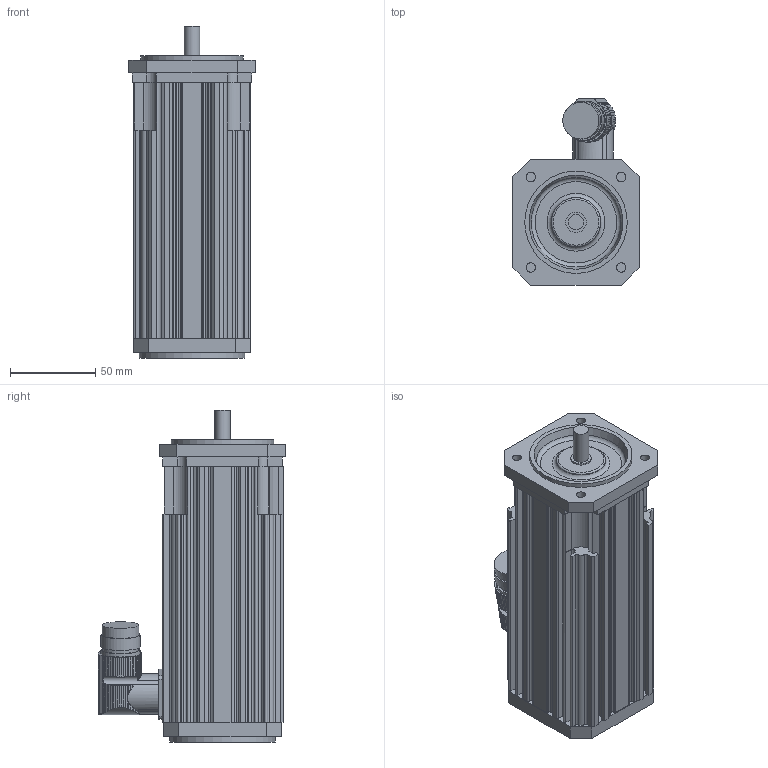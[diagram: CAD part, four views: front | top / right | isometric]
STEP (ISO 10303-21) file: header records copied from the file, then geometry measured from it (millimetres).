
FILE_DESCRIPTION(/* description */ (''),/* implementation_level */ '2;1');
FILE_NAME(/* name */ 'KSA248',/* time_stamp */ '2009-02-26T12:46:03+01:00',/* author */ (''),/* organization */ (''),/* preprocessor_version */ 'ST-DEVELOPER v8',/* originating_system */ 'UNIGRAPHICS SOLUTIONS - UNIGRAPHICS 18.0',/* authorisation */ '');
FILE_SCHEMA (('AUTOMOTIVE_DESIGN { 1 2 10303 214 0 1 1 1 }'));
Length unit declared in the file: millimetre
Products named in the file (4): Lagersch2AS_0; Winkelflanschdose_0; Lagersch2BS_0; KSA244-1_0
Assembly tree (3 placements, depth 2):
  KSA244-1_0
    Lagersch2BS_0
    Winkelflanschdose_0
    Lagersch2AS_0
Bounding box: 74 x 109.69 x 194.5 mm (x, y, z)
Volume: 328333.7 mm3; surface area: 127252.3 mm2
Topology: 4 solids, 4 shells, 474 faces, 1316 edges, 852 vertices
Faces by surface type: cylinder 257, plane 164, torus 16, bspline 16, sphere 16, cone 5
Full cylindrical faces by diameter (mm): 5.5 x4, 9 x1, 12 x1, 16 x1, 20 x1, 21 x1, 21.5 x1, 23 x2, 60 x2, 61 x2, 62 x1
Entity records: 16096 total; most frequent: CARTESIAN_POINT 3733, ORIENTED_EDGE 2530, DIRECTION 2476, EDGE_CURVE 1265, AXIS2_PLACEMENT_3D 933, VERTEX_POINT 842, LINE 610, VECTOR 610
